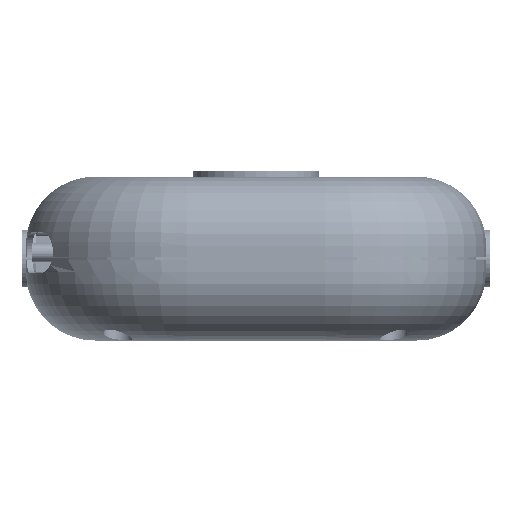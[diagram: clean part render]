
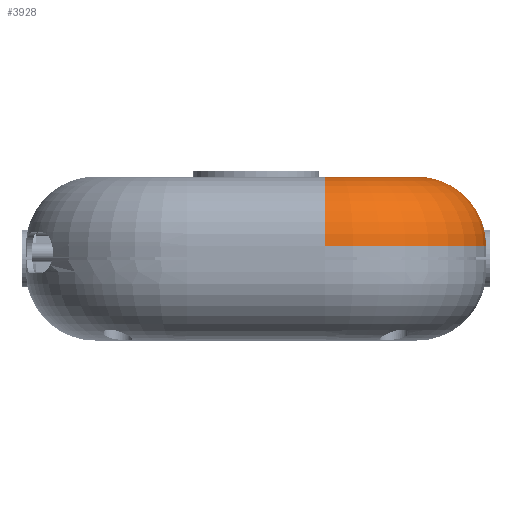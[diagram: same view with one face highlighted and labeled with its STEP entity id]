
A CAD part, front view. The second image highlights one B-rep face of the part: STEP entity #3928.
In plain terms, the highlighted toroidal (fillet/blend) face has major radius 16 mm and minor radius 12 mm.
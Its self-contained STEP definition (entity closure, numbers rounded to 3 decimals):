
#474 = PLANE('',#475);
#475 = AXIS2_PLACEMENT_3D('',#476,#477,#478);
#476 = CARTESIAN_POINT('',(-40.,-64.,28.5));
#477 = DIRECTION('',(0.,0.,1.));
#478 = DIRECTION('',(1.,0.,0.));
#1012 = CYLINDRICAL_SURFACE('',#1013,12.);
#1013 = AXIS2_PLACEMENT_3D('',#1014,#1015,#1016);
#1014 = CARTESIAN_POINT('',(12.,-52.,16.5));
#1015 = DIRECTION('',(-1.,-0.,-0.));
#1016 = DIRECTION('',(-0.,0.,1.));
#1442 = VERTEX_POINT('',#1443);
#1443 = CARTESIAN_POINT('',(12.,-52.,28.5));
#1464 = EDGE_CURVE('',#1465,#1442,#1467,.T.);
#1465 = VERTEX_POINT('',#1466);
#1466 = CARTESIAN_POINT('',(28.,-36.,28.5));
#1467 = SURFACE_CURVE('',#1468,(#1473,#1484),.PCURVE_S1.);
#1468 = CIRCLE('',#1469,16.);
#1469 = AXIS2_PLACEMENT_3D('',#1470,#1471,#1472);
#1470 = CARTESIAN_POINT('',(12.,-36.,28.5));
#1471 = DIRECTION('',(0.,0.,-1.));
#1472 = DIRECTION('',(1.,0.,0.));
#1473 = PCURVE('',#474,#1474);
#1474 = DEFINITIONAL_REPRESENTATION('',(#1475),#1483);
#1475 = ( BOUNDED_CURVE() B_SPLINE_CURVE(2,(#1476,#1477,#1478,#1479,
#1480,#1481,#1482),.UNSPECIFIED.,.T.,.F.) B_SPLINE_CURVE_WITH_KNOTS((1,2
    ,2,2,2,1),(-2.094,0.,2.094,4.189,
6.283,8.378),.UNSPECIFIED.) CURVE() 
GEOMETRIC_REPRESENTATION_ITEM() RATIONAL_B_SPLINE_CURVE((1.,0.5,1.,0.5,
1.,0.5,1.)) REPRESENTATION_ITEM('') );
#1476 = CARTESIAN_POINT('',(68.,28.));
#1477 = CARTESIAN_POINT('',(68.,0.287));
#1478 = CARTESIAN_POINT('',(44.,14.144));
#1479 = CARTESIAN_POINT('',(20.,28.));
#1480 = CARTESIAN_POINT('',(44.,41.856));
#1481 = CARTESIAN_POINT('',(68.,55.713));
#1482 = CARTESIAN_POINT('',(68.,28.));
#1483 = ( GEOMETRIC_REPRESENTATION_CONTEXT(2) 
PARAMETRIC_REPRESENTATION_CONTEXT() REPRESENTATION_CONTEXT('2D SPACE',''
  ) );
#1484 = PCURVE('',#1485,#1490);
#1485 = TOROIDAL_SURFACE('',#1486,16.,12.);
#1486 = AXIS2_PLACEMENT_3D('',#1487,#1488,#1489);
#1487 = CARTESIAN_POINT('',(12.,-36.,16.5));
#1488 = DIRECTION('',(-0.,-0.,-1.));
#1489 = DIRECTION('',(1.,0.,0.));
#1490 = DEFINITIONAL_REPRESENTATION('',(#1491),#1495);
#1491 = LINE('',#1492,#1493);
#1492 = CARTESIAN_POINT('',(0.,4.712));
#1493 = VECTOR('',#1494,1.);
#1494 = DIRECTION('',(1.,0.));
#1495 = ( GEOMETRIC_REPRESENTATION_CONTEXT(2) 
PARAMETRIC_REPRESENTATION_CONTEXT() REPRESENTATION_CONTEXT('2D SPACE',''
  ) );
#1513 = CYLINDRICAL_SURFACE('',#1514,12.);
#1514 = AXIS2_PLACEMENT_3D('',#1515,#1516,#1517);
#1515 = CARTESIAN_POINT('',(28.,36.,16.5));
#1516 = DIRECTION('',(-0.,-1.,-0.));
#1517 = DIRECTION('',(0.,0.,1.));
#2439 = EDGE_CURVE('',#1442,#2440,#2442,.T.);
#2440 = VERTEX_POINT('',#2441);
#2441 = CARTESIAN_POINT('',(12.,-64.,16.5));
#2442 = SURFACE_CURVE('',#2443,(#2448,#2454),.PCURVE_S1.);
#2443 = CIRCLE('',#2444,12.);
#2444 = AXIS2_PLACEMENT_3D('',#2445,#2446,#2447);
#2445 = CARTESIAN_POINT('',(12.,-52.,16.5));
#2446 = DIRECTION('',(1.,0.,0.));
#2447 = DIRECTION('',(0.,-1.,0.));
#2448 = PCURVE('',#1012,#2449);
#2449 = DEFINITIONAL_REPRESENTATION('',(#2450),#2453);
#2450 = B_SPLINE_CURVE_WITH_KNOTS('',1,(#2451,#2452),.UNSPECIFIED.,.F.,
  .F.,(2,2),(4.712,6.283),.PIECEWISE_BEZIER_KNOTS.);
#2451 = CARTESIAN_POINT('',(0.,0.));
#2452 = CARTESIAN_POINT('',(-1.571,0.));
#2453 = ( GEOMETRIC_REPRESENTATION_CONTEXT(2) 
PARAMETRIC_REPRESENTATION_CONTEXT() REPRESENTATION_CONTEXT('2D SPACE',''
  ) );
#2454 = PCURVE('',#1485,#2455);
#2455 = DEFINITIONAL_REPRESENTATION('',(#2456),#2459);
#2456 = B_SPLINE_CURVE_WITH_KNOTS('',1,(#2457,#2458),.UNSPECIFIED.,.F.,
  .F.,(2,2),(4.712,6.283),.PIECEWISE_BEZIER_KNOTS.);
#2457 = CARTESIAN_POINT('',(1.571,4.712));
#2458 = CARTESIAN_POINT('',(1.571,6.283));
#2459 = ( GEOMETRIC_REPRESENTATION_CONTEXT(2) 
PARAMETRIC_REPRESENTATION_CONTEXT() REPRESENTATION_CONTEXT('2D SPACE',''
  ) );
#3882 = VERTEX_POINT('',#3883);
#3883 = CARTESIAN_POINT('',(40.,-36.,16.5));
#3909 = EDGE_CURVE('',#1465,#3882,#3910,.T.);
#3910 = SURFACE_CURVE('',#3911,(#3916,#3922),.PCURVE_S1.);
#3911 = CIRCLE('',#3912,12.);
#3912 = AXIS2_PLACEMENT_3D('',#3913,#3914,#3915);
#3913 = CARTESIAN_POINT('',(28.,-36.,16.5));
#3914 = DIRECTION('',(0.,1.,0.));
#3915 = DIRECTION('',(0.,-0.,1.));
#3916 = PCURVE('',#1513,#3917);
#3917 = DEFINITIONAL_REPRESENTATION('',(#3918),#3921);
#3918 = B_SPLINE_CURVE_WITH_KNOTS('',1,(#3919,#3920),.UNSPECIFIED.,.F.,
  .F.,(2,2),(0.,1.571),.PIECEWISE_BEZIER_KNOTS.);
#3919 = CARTESIAN_POINT('',(0.,72.));
#3920 = CARTESIAN_POINT('',(-1.571,72.));
#3921 = ( GEOMETRIC_REPRESENTATION_CONTEXT(2) 
PARAMETRIC_REPRESENTATION_CONTEXT() REPRESENTATION_CONTEXT('2D SPACE',''
  ) );
#3922 = PCURVE('',#1485,#3923);
#3923 = DEFINITIONAL_REPRESENTATION('',(#3924),#3927);
#3924 = B_SPLINE_CURVE_WITH_KNOTS('',1,(#3925,#3926),.UNSPECIFIED.,.F.,
  .F.,(2,2),(0.,1.571),.PIECEWISE_BEZIER_KNOTS.);
#3925 = CARTESIAN_POINT('',(0.,4.712));
#3926 = CARTESIAN_POINT('',(0.,6.283));
#3927 = ( GEOMETRIC_REPRESENTATION_CONTEXT(2) 
PARAMETRIC_REPRESENTATION_CONTEXT() REPRESENTATION_CONTEXT('2D SPACE',''
  ) );
#3928 = ADVANCED_FACE('',(#3929),#1485,.T.);
#3929 = FACE_BOUND('',#3930,.T.);
#3930 = EDGE_LOOP('',(#3931,#3932,#3933,#3934));
#3931 = ORIENTED_EDGE('',*,*,#3909,.F.);
#3932 = ORIENTED_EDGE('',*,*,#1464,.T.);
#3933 = ORIENTED_EDGE('',*,*,#2439,.T.);
#3934 = ORIENTED_EDGE('',*,*,#3935,.F.);
#3935 = EDGE_CURVE('',#3882,#2440,#3936,.T.);
#3936 = SURFACE_CURVE('',#3937,(#3942,#3949),.PCURVE_S1.);
#3937 = CIRCLE('',#3938,28.);
#3938 = AXIS2_PLACEMENT_3D('',#3939,#3940,#3941);
#3939 = CARTESIAN_POINT('',(12.,-36.,16.5));
#3940 = DIRECTION('',(0.,0.,-1.));
#3941 = DIRECTION('',(1.,0.,0.));
#3942 = PCURVE('',#1485,#3943);
#3943 = DEFINITIONAL_REPRESENTATION('',(#3944),#3948);
#3944 = LINE('',#3945,#3946);
#3945 = CARTESIAN_POINT('',(0.,6.283));
#3946 = VECTOR('',#3947,1.);
#3947 = DIRECTION('',(1.,0.));
#3948 = ( GEOMETRIC_REPRESENTATION_CONTEXT(2) 
PARAMETRIC_REPRESENTATION_CONTEXT() REPRESENTATION_CONTEXT('2D SPACE',''
  ) );
#3949 = PCURVE('',#3950,#3955);
#3950 = CYLINDRICAL_SURFACE('',#3951,28.);
#3951 = AXIS2_PLACEMENT_3D('',#3952,#3953,#3954);
#3952 = CARTESIAN_POINT('',(12.,-36.,0.));
#3953 = DIRECTION('',(0.,0.,1.));
#3954 = DIRECTION('',(1.,0.,-0.));
#3955 = DEFINITIONAL_REPRESENTATION('',(#3956),#3960);
#3956 = LINE('',#3957,#3958);
#3957 = CARTESIAN_POINT('',(-0.,16.5));
#3958 = VECTOR('',#3959,1.);
#3959 = DIRECTION('',(-1.,0.));
#3960 = ( GEOMETRIC_REPRESENTATION_CONTEXT(2) 
PARAMETRIC_REPRESENTATION_CONTEXT() REPRESENTATION_CONTEXT('2D SPACE',''
  ) );
